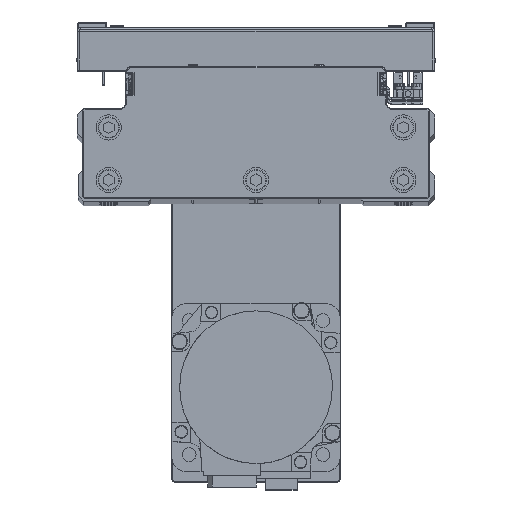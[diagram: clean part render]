
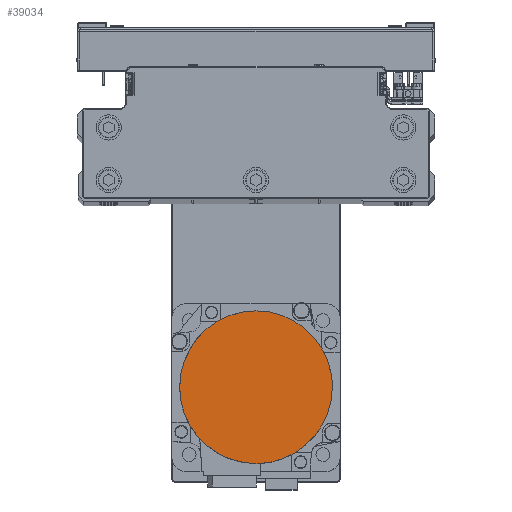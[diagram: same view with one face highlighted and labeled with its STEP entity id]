
A CAD part, top view. The second image highlights one B-rep face of the part: STEP entity #39034.
In plain terms, the highlighted planar face has unit normal (0, 0, 1) as drawn and (0, 0, -1) by its records, which use the part's own axes.
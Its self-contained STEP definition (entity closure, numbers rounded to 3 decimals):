
#124 = CARTESIAN_POINT ( 'NONE',  ( -2.376, -36.3, -122.2 ) ) ;
#1718 = CARTESIAN_POINT ( 'NONE',  ( -9.412, 35.139, -122.2 ) ) ;
#1944 = CARTESIAN_POINT ( 'NONE',  ( -36.3, 2.376, -122.2 ) ) ;
#2041 = AXIS2_PLACEMENT_3D ( 'NONE', #35086, #3841, #17742 ) ;
#2976 = CARTESIAN_POINT ( 'NONE',  ( 0., 36.3, -122.2 ) ) ;
#3310 = CARTESIAN_POINT ( 'NONE',  ( -36.3, 0., -122.2 ) ) ;
#3543 = CARTESIAN_POINT ( 'NONE',  ( -11.696, -34.446, -122.2 ) ) ;
#3841 = DIRECTION ( 'NONE',  ( 0., 0., 1. ) ) ;
#5147 = CARTESIAN_POINT ( 'NONE',  ( 0., 36.3, -122.2 ) ) ;
#5367 = CARTESIAN_POINT ( 'NONE',  ( -34.446, 11.696, -122.2 ) ) ;
#5922 = DIRECTION ( 'NONE',  ( 0., 0., 1. ) ) ;
#6957 = CARTESIAN_POINT ( 'NONE',  ( -22.143, -28.862, -122.2 ) ) ;
#7452 = EDGE_CURVE ( 'NONE', #18839, #18935, #21705, .T. ) ;
#8787 = CARTESIAN_POINT ( 'NONE',  ( -28.862, 22.143, -122.2 ) ) ;
#9328 = FACE_OUTER_BOUND ( 'NONE', #42317, .T. ) ;
#10379 = CARTESIAN_POINT ( 'NONE',  ( -28.862, -22.143, -122.2 ) ) ;
#12200 = CARTESIAN_POINT ( 'NONE',  ( -22.143, 28.862, -122.2 ) ) ;
#13674 = DIRECTION ( 'NONE',  ( 0., 0., 1. ) ) ;
#13801 = CARTESIAN_POINT ( 'NONE',  ( -34.446, -11.696, -122.2 ) ) ;
#14027 = CARTESIAN_POINT ( 'NONE',  ( 0., -36.3, -122.2 ) ) ;
#14673 = AXIS2_PLACEMENT_3D ( 'NONE', #37180, #5922, #19836 ) ;
#15621 = CARTESIAN_POINT ( 'NONE',  ( -11.696, 34.446, -122.2 ) ) ;
#15847 = CARTESIAN_POINT ( 'NONE',  ( -36.3, 0., -122.2 ) ) ;
#16542 = ORIENTED_EDGE ( 'NONE', *, *, #30022, .F. ) ;
#17214 = CARTESIAN_POINT ( 'NONE',  ( -36.3, -2.376, -122.2 ) ) ;
#17454 = CARTESIAN_POINT ( 'NONE',  ( -9.412, -35.139, -122.2 ) ) ;
#17742 = DIRECTION ( 'NONE',  ( -1., 0., 0. ) ) ;
#18839 = VERTEX_POINT ( 'NONE', #41056 ) ;
#18935 = VERTEX_POINT ( 'NONE', #34658 ) ;
#19063 = CARTESIAN_POINT ( 'NONE',  ( -2.376, 36.3, -122.2 ) ) ;
#19278 = CARTESIAN_POINT ( 'NONE',  ( -35.139, 9.412, -122.2 ) ) ;
#19836 = DIRECTION ( 'NONE',  ( 1., 0., 0. ) ) ;
#20870 = CARTESIAN_POINT ( 'NONE',  ( -18.192, -31.502, -122.2 ) ) ;
#21705 = CIRCLE ( 'NONE', #2041, 36.3 ) ;
#22720 = CARTESIAN_POINT ( 'NONE',  ( -31.502, 18.192, -122.2 ) ) ;
#23028 = CARTESIAN_POINT ( 'NONE',  ( -36.3, 0., -122.2 ) ) ;
#23263 = PLANE ( 'NONE',  #14673 ) ;
#23764 = AXIS2_PLACEMENT_3D ( 'NONE', #44947, #13674, #27608 ) ;
#24306 = CARTESIAN_POINT ( 'NONE',  ( -27.348, -23.988, -122.2 ) ) ;
#24541 = ORIENTED_EDGE ( 'NONE', *, *, #7452, .F. ) ;
#26126 = CARTESIAN_POINT ( 'NONE',  ( -23.988, 27.348, -122.2 ) ) ;
#27608 = DIRECTION ( 'NONE',  ( -1., 0., 0. ) ) ;
#27730 = CARTESIAN_POINT ( 'NONE',  ( -32.628, -16.086, -122.2 ) ) ;
#27924 = EDGE_CURVE ( 'NONE', #18935, #29079, #43425, .T. ) ;
#28328 = B_SPLINE_CURVE_WITH_KNOTS ( 'NONE', 3,
 ( #5147, #19063, #32967, #1718, #15621, #29545, #43462, #12200, #26126, #40047, #8787, #22720, #36628, #5367, #19278, #33189, #1944, #15847 ),
 .UNSPECIFIED., .F., .F.,
 ( 4, 2, 2, 2, 2, 2, 2, 2, 4 ),
 ( 0., 0.125, 0.25, 0.375, 0.5, 0.625, 0.75, 0.875, 1. ),
 .UNSPECIFIED. ) ;
#29079 = VERTEX_POINT ( 'NONE', #2976 ) ;
#29545 = CARTESIAN_POINT ( 'NONE',  ( -16.086, 32.628, -122.2 ) ) ;
#30022 = EDGE_CURVE ( 'NONE', #35255, #18839, #30501, .T. ) ;
#30501 = B_SPLINE_CURVE_WITH_KNOTS ( 'NONE', 3,
 ( #3310, #17214, #31139, #45078, #13801, #27730, #41652, #10379, #24306, #38206, #6957, #20870, #34785, #3543, #17454, #31372, #124, #14027 ),
 .UNSPECIFIED., .F., .F.,
 ( 4, 2, 2, 2, 2, 2, 2, 2, 4 ),
 ( 0., 0.125, 0.25, 0.375, 0.5, 0.625, 0.75, 0.875, 1. ),
 .UNSPECIFIED. ) ;
#31139 = CARTESIAN_POINT ( 'NONE',  ( -36.066, -4.752, -122.2 ) ) ;
#31372 = CARTESIAN_POINT ( 'NONE',  ( -4.752, -36.066, -122.2 ) ) ;
#32967 = CARTESIAN_POINT ( 'NONE',  ( -4.752, 36.066, -122.2 ) ) ;
#33189 = CARTESIAN_POINT ( 'NONE',  ( -36.066, 4.752, -122.2 ) ) ;
#34658 = CARTESIAN_POINT ( 'NONE',  ( 36.3, 0., -122.2 ) ) ;
#34785 = CARTESIAN_POINT ( 'NONE',  ( -16.086, -32.628, -122.2 ) ) ;
#35086 = CARTESIAN_POINT ( 'NONE',  ( 0., 0., -122.2 ) ) ;
#35255 = VERTEX_POINT ( 'NONE', #23028 ) ;
#36628 = CARTESIAN_POINT ( 'NONE',  ( -32.628, 16.086, -122.2 ) ) ;
#37180 = CARTESIAN_POINT ( 'NONE',  ( 0., 0., -122.2 ) ) ;
#38206 = CARTESIAN_POINT ( 'NONE',  ( -23.988, -27.348, -122.2 ) ) ;
#38757 = ORIENTED_EDGE ( 'NONE', *, *, #27924, .F. ) ;
#39034 = ADVANCED_FACE ( 'NONE', ( #9328 ), #23263, .F. ) ;
#40047 = CARTESIAN_POINT ( 'NONE',  ( -27.348, 23.988, -122.2 ) ) ;
#40680 = ORIENTED_EDGE ( 'NONE', *, *, #41890, .F. ) ;
#41056 = CARTESIAN_POINT ( 'NONE',  ( 0., -36.3, -122.2 ) ) ;
#41652 = CARTESIAN_POINT ( 'NONE',  ( -31.502, -18.192, -122.2 ) ) ;
#41890 = EDGE_CURVE ( 'NONE', #29079, #35255, #28328, .T. ) ;
#42317 = EDGE_LOOP ( 'NONE', ( #24541, #16542, #40680, #38757 ) ) ;
#43425 = CIRCLE ( 'NONE', #23764, 36.3 ) ;
#43462 = CARTESIAN_POINT ( 'NONE',  ( -18.192, 31.502, -122.2 ) ) ;
#44947 = CARTESIAN_POINT ( 'NONE',  ( 0., 0., -122.2 ) ) ;
#45078 = CARTESIAN_POINT ( 'NONE',  ( -35.139, -9.412, -122.2 ) ) ;
